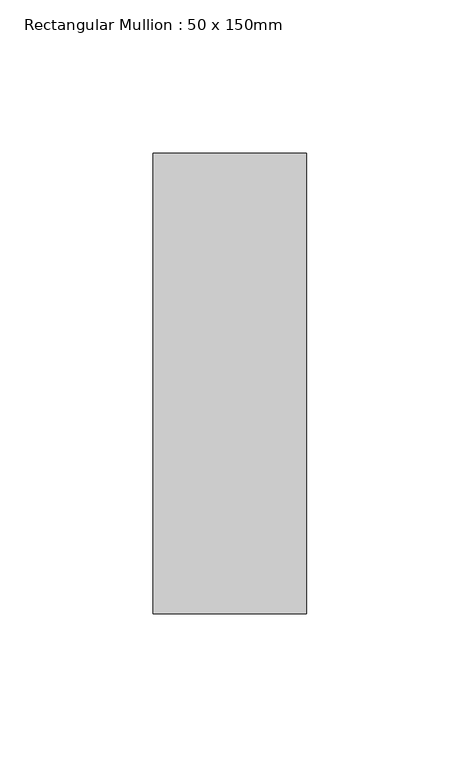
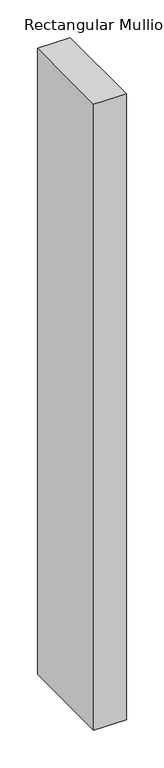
"""IFC4 building model written with IfcOpenShell, lengths in millimetres: member geometry, Rectangular Mullion : 50 x 150mm."""

from ifc_helpers import new_model, si_unit, frame, origin, place, context, project, spatial, polyline, outline, extrude, source, transform, mapped, element, save


def rectangular_mullion_50_x_150mm_992fb0bb(model_context):
    return source(origin(), model_context, "Body", "SweptSolid", [
        extrude(outline(polyline([(0.0, 75.0), (0.0, -75.0), (-50.0, -75.0), (-50.0, 75.0), (0.0, 75.0)])), frame((0.0, 0.0, -1016.6666667), z_axis=(0.0, 0.0, 1.0), x_axis=(1.0, 0.0, 0.0)), (0.0, 0.0, 1.0), 1016.6666667),
    ])


if __name__ == "__main__":
    model = new_model("IFC4")
    model_context = context("Model", 3, world=origin())
    ifc_project = project(units=[si_unit("LENGTHUNIT", "METRE", prefix="MILLI")], contexts=[model_context])
    site = spatial("IfcSite", under=ifc_project)
    building = spatial("IfcBuilding", under=site)
    placement = place(None, origin())
    rectangular_mullion_50_x_150mm_shape = rectangular_mullion_50_x_150mm_992fb0bb(model_context)
    element("IfcMember", 1, ObjectType="Rectangular Mullion : 50 x 150mm", at=placement, inside=building, context=model_context, shape_type="MappedRepresentation", body=[
        mapped(rectangular_mullion_50_x_150mm_shape, transform((0.0, 0.0, 0.0), x_axis=(1.0, 0.0, 0.0), y_axis=(0.0, 1.0, 0.0), z_axis=(0.0, 0.0, 1.0))),
    ])
    save(model, "model.ifc")
